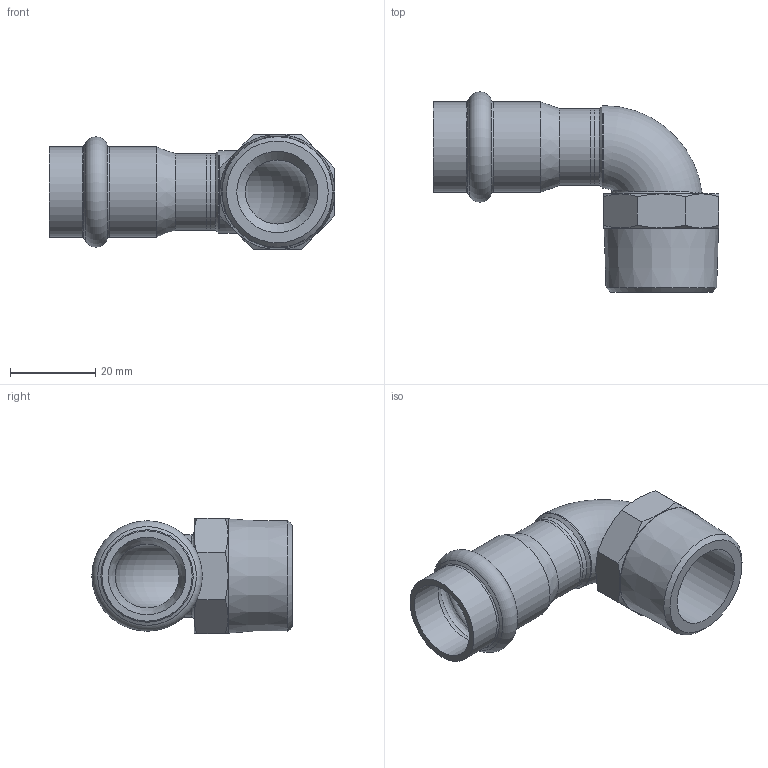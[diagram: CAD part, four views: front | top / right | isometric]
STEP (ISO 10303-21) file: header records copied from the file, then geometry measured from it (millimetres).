
FILE_DESCRIPTION((''),'2;1');
FILE_NAME('G:\Nirosan-Schmiedefeld\Technics\CAD\001 Serie 9.000\018\69092AG1834H(2).stp','2017-05-15T14:27:59',('herberg'),(''),'Autodesk Inventor 2009','Autodesk Inventor 2009','');
FILE_SCHEMA(('AUTOMOTIVE_DESIGN { 1 0 10303 214 1 1 1 1 }'));
Length unit declared in the file: millimetre
Products named in the file (3): 69092AG1834H(2); 69ATWAG1834P(0); 69HM18P(1)
Assembly tree (2 placements, depth 2):
  69092AG1834H(2)
    69ATWAG1834P(0)
    69HM18P(1)
Bounding box: 67 x 46.94 x 27 mm (x, y, z)
Volume: 12944.9 mm3; surface area: 11292.3 mm2
Topology: 2 solids, 2 shells, 57 faces, 121 edges, 70 vertices
Faces by surface type: cone 24, plane 14, cylinder 9, bspline 5, torus 5
Full cylindrical faces by diameter (mm): 15 x2, 18 x2, 18.15 x2, 19.4 x1, 21.15 x2
Entity records: 2217 total; most frequent: CARTESIAN_POINT 1139, DIRECTION 216, ORIENTED_EDGE 178, AXIS2_PLACEMENT_3D 104, EDGE_CURVE 89, EDGE_LOOP 89, VERTEX_POINT 64, FACE_OUTER_BOUND 57
